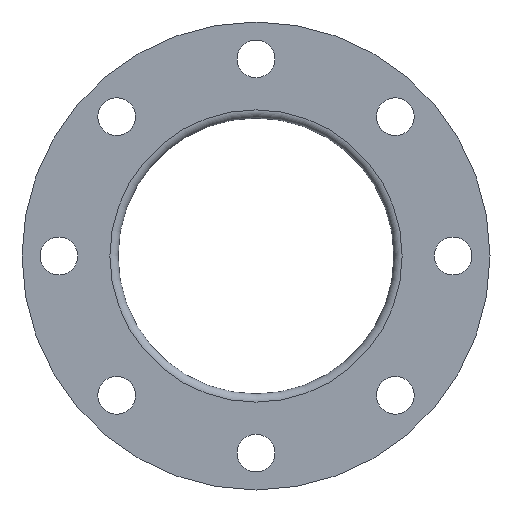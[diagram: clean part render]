
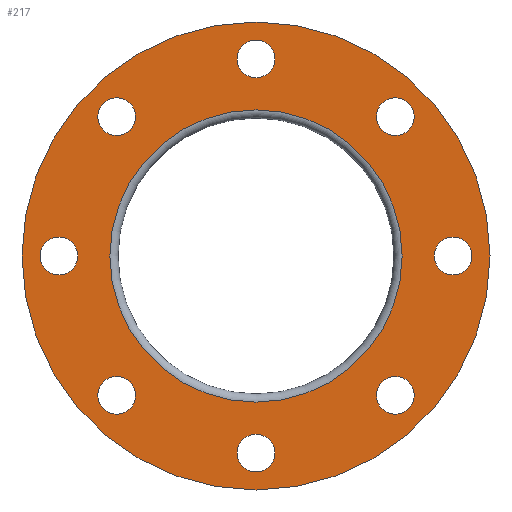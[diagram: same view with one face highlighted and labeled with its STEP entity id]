
A CAD part, front view. The second image highlights one B-rep face of the part: STEP entity #217.
In plain terms, the highlighted planar face has unit normal (0, -1, 0).
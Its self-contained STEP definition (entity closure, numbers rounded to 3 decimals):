
#13=PLANE($,#236);
#27=FACE_BOUND($,#72,.T.);
#28=FACE_BOUND($,#73,.T.);
#29=FACE_BOUND($,#74,.T.);
#30=FACE_BOUND($,#75,.T.);
#31=FACE_BOUND($,#76,.T.);
#32=FACE_BOUND($,#77,.T.);
#33=FACE_BOUND($,#78,.T.);
#34=FACE_BOUND($,#79,.T.);
#35=FACE_BOUND($,#80,.T.);
#57=FACE_OUTER_BOUND($,#71,.T.);
#71=EDGE_LOOP($,(#176));
#72=EDGE_LOOP($,(#177));
#73=EDGE_LOOP($,(#178));
#74=EDGE_LOOP($,(#179));
#75=EDGE_LOOP($,(#180));
#76=EDGE_LOOP($,(#181));
#77=EDGE_LOOP($,(#182));
#78=EDGE_LOOP($,(#183));
#79=EDGE_LOOP($,(#184));
#80=EDGE_LOOP($,(#185));
#110=CIRCLE($,#233,89.);
#112=CIRCLE($,#237,142.5);
#113=CIRCLE($,#238,11.5);
#114=CIRCLE($,#239,11.5);
#115=CIRCLE($,#240,11.5);
#116=CIRCLE($,#241,11.5);
#117=CIRCLE($,#242,11.5);
#118=CIRCLE($,#243,11.5);
#119=CIRCLE($,#244,11.5);
#120=CIRCLE($,#245,11.5);
#131=VERTEX_POINT($,#339);
#133=VERTEX_POINT($,#345);
#134=VERTEX_POINT($,#347);
#135=VERTEX_POINT($,#349);
#136=VERTEX_POINT($,#351);
#137=VERTEX_POINT($,#353);
#138=VERTEX_POINT($,#355);
#139=VERTEX_POINT($,#357);
#140=VERTEX_POINT($,#359);
#141=VERTEX_POINT($,#361);
#152=EDGE_CURVE($,#131,#131,#110,.T.);
#154=EDGE_CURVE($,#133,#133,#112,.T.);
#155=EDGE_CURVE($,#134,#134,#113,.T.);
#156=EDGE_CURVE($,#135,#135,#114,.T.);
#157=EDGE_CURVE($,#136,#136,#115,.T.);
#158=EDGE_CURVE($,#137,#137,#116,.T.);
#159=EDGE_CURVE($,#138,#138,#117,.T.);
#160=EDGE_CURVE($,#139,#139,#118,.T.);
#161=EDGE_CURVE($,#140,#140,#119,.T.);
#162=EDGE_CURVE($,#141,#141,#120,.T.);
#176=ORIENTED_EDGE($,*,*,#154,.F.);
#177=ORIENTED_EDGE($,*,*,#155,.T.);
#178=ORIENTED_EDGE($,*,*,#156,.T.);
#179=ORIENTED_EDGE($,*,*,#157,.T.);
#180=ORIENTED_EDGE($,*,*,#158,.T.);
#181=ORIENTED_EDGE($,*,*,#159,.T.);
#182=ORIENTED_EDGE($,*,*,#160,.T.);
#183=ORIENTED_EDGE($,*,*,#161,.T.);
#184=ORIENTED_EDGE($,*,*,#162,.T.);
#185=ORIENTED_EDGE($,*,*,#152,.F.);
#217=ADVANCED_FACE($,(#57,#27,#28,#29,#30,#31,#32,#33,#34,#35),#13,.T.);
#233=AXIS2_PLACEMENT_3D($,#340,#271,#272);
#236=AXIS2_PLACEMENT_3D($,#344,#277,#278);
#237=AXIS2_PLACEMENT_3D($,#346,#279,#280);
#238=AXIS2_PLACEMENT_3D($,#348,#281,#282);
#239=AXIS2_PLACEMENT_3D($,#350,#283,#284);
#240=AXIS2_PLACEMENT_3D($,#352,#285,#286);
#241=AXIS2_PLACEMENT_3D($,#354,#287,#288);
#242=AXIS2_PLACEMENT_3D($,#356,#289,#290);
#243=AXIS2_PLACEMENT_3D($,#358,#291,#292);
#244=AXIS2_PLACEMENT_3D($,#360,#293,#294);
#245=AXIS2_PLACEMENT_3D($,#362,#295,#296);
#271=DIRECTION('center_axis',(0.,-1.,0.));
#272=DIRECTION('ref_axis',(1.,0.,0.));
#277=DIRECTION('center_axis',(0.,-1.,0.));
#278=DIRECTION('ref_axis',(0.,0.,-1.));
#279=DIRECTION('center_axis',(0.,1.,0.));
#280=DIRECTION('ref_axis',(-1.,0.,0.));
#281=DIRECTION('center_axis',(0.,1.,0.));
#282=DIRECTION('ref_axis',(1.,0.,0.));
#283=DIRECTION('center_axis',(0.,1.,0.));
#284=DIRECTION('ref_axis',(0.707,0.,-0.707));
#285=DIRECTION('center_axis',(0.,1.,0.));
#286=DIRECTION('ref_axis',(0.,0.,-1.));
#287=DIRECTION('center_axis',(0.,1.,0.));
#288=DIRECTION('ref_axis',(-0.707,0.,-0.707));
#289=DIRECTION('center_axis',(0.,1.,0.));
#290=DIRECTION('ref_axis',(-1.,0.,0.));
#291=DIRECTION('center_axis',(0.,1.,0.));
#292=DIRECTION('ref_axis',(-0.707,0.,0.707));
#293=DIRECTION('center_axis',(0.,1.,0.));
#294=DIRECTION('ref_axis',(0.,0.,1.));
#295=DIRECTION('center_axis',(0.,1.,0.));
#296=DIRECTION('ref_axis',(0.707,0.,0.707));
#339=CARTESIAN_POINT('',(-89.,0.,0.));
#340=CARTESIAN_POINT('Origin',(0.,0.,0.));
#344=CARTESIAN_POINT('Origin',(-71.25,0.,0.));
#345=CARTESIAN_POINT('',(-142.5,0.,0.));
#346=CARTESIAN_POINT('Origin',(0.,0.,0.));
#347=CARTESIAN_POINT('',(108.5,0.,0.));
#348=CARTESIAN_POINT('Origin',(120.,0.,0.));
#349=CARTESIAN_POINT('',(76.721,0.,-76.721));
#350=CARTESIAN_POINT('Origin',(84.853,0.,-84.853));
#351=CARTESIAN_POINT('',(0.,0.,-108.5));
#352=CARTESIAN_POINT('Origin',(0.,0.,-120.));
#353=CARTESIAN_POINT('',(-76.721,0.,-76.721));
#354=CARTESIAN_POINT('Origin',(-84.853,0.,-84.853));
#355=CARTESIAN_POINT('',(-108.5,0.,0.));
#356=CARTESIAN_POINT('Origin',(-120.,0.,0.));
#357=CARTESIAN_POINT('',(-76.721,0.,76.721));
#358=CARTESIAN_POINT('Origin',(-84.853,0.,84.853));
#359=CARTESIAN_POINT('',(0.,0.,108.5));
#360=CARTESIAN_POINT('Origin',(0.,0.,120.));
#361=CARTESIAN_POINT('',(76.721,0.,76.721));
#362=CARTESIAN_POINT('Origin',(84.853,0.,84.853));
